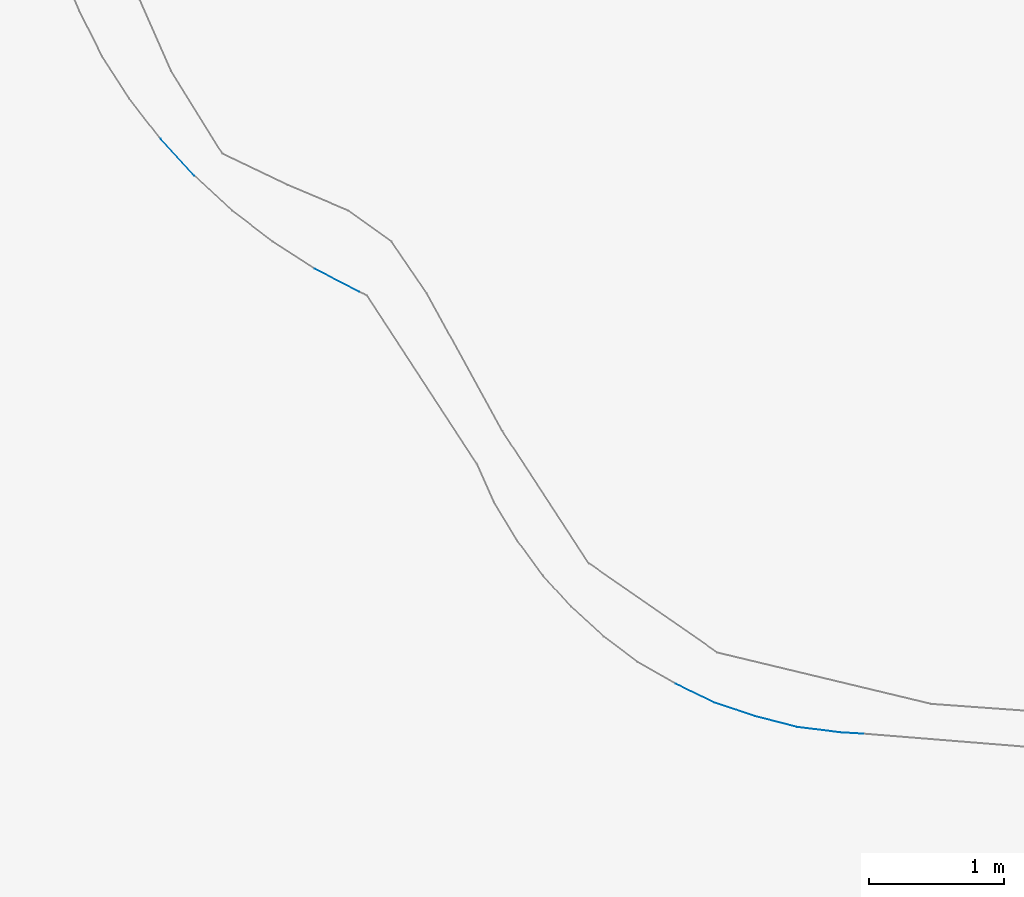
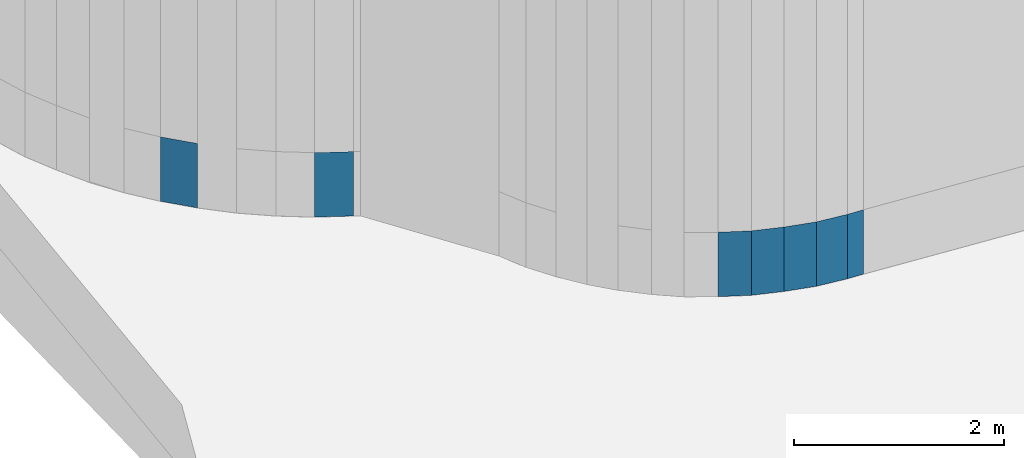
# Not in any storey, part 93 of 136: 13 walls.
"""IFC4 building model written with IfcOpenShell, lengths in metres."""

import ifcopenshell
import ifcopenshell.guid

model = None  # the IFC model being written
_history = None  # IfcOwnerHistory: only IFC2X3 demands one
_inside = {}  # id of a spatial element -> (the spatial element, [elements in it])
_under = {}  # id of a project, library or spatial element -> (it, [spatial elements below it])
_declared = {}  # id of a project -> (the project, [libraries it declares])
_typed = {}  # id of a type object -> (the type object, [elements of that type])
_made_of = {}  # id of a material, layer set ... -> (it, [elements and type objects made of it])


def new_model(schema):
    """Start an empty IFC model of exactly this schema.

    Asked for "IFC4X3", IfcOpenShell would pick the latest addendum, in which some entities
    have other attributes; the version numbers below select the first issue.
    IFC2X3 requires an IfcOwnerHistory on every rooted entity: one is made here for all.
    """
    global model, _history
    if schema == "IFC4X3":
        model = ifcopenshell.file(schema_version=(4, 3, 0, 0))
    else:
        model = ifcopenshell.file(schema=schema)
    _inside.clear()
    _under.clear()
    _declared.clear()
    _typed.clear()
    _made_of.clear()
    _history = None
    if model.schema == "IFC2X3":
        org = make("IfcOrganization", Name="unknown")
        user = make(
            "IfcPersonAndOrganization",
            ThePerson=make("IfcPerson", FamilyName="unknown"),
            TheOrganization=org,
        )
        app = make(
            "IfcApplication",
            ApplicationDeveloper=org,
            Version="unknown",
            ApplicationFullName="unknown",
            ApplicationIdentifier="unknown",
        )
        _history = make(
            "IfcOwnerHistory",
            OwningUser=user,
            OwningApplication=app,
            ChangeAction="ADDED",
            CreationDate=0,
        )
    return model


def make(cls, **values):
    """One entity of the class cls with the attributes given. An attribute that is None is left unset."""
    return model.create_entity(
        cls, **{name: value for name, value in values.items() if value is not None}
    )


def entity(cls, *values):
    """Any entity or typed value of the class cls, its attributes in the order of the schema. None: left unset."""
    e = model.create_entity(cls)
    for i, value in enumerate(values):
        if value is not None:
            e[i] = value
    return e


def rooted(cls, **values):
    """An entity with a GlobalId (a new one), such as an element, a storey or a relation."""
    return make(cls, GlobalId=ifcopenshell.guid.new(), OwnerHistory=_history, **values)


def si_unit(unit_type, name, prefix=None):
    """IfcSIUnit, for example si_unit("LENGTHUNIT", "METRE", prefix="MILLI")."""
    return make("IfcSIUnit", UnitType=unit_type, Prefix=prefix, Name=name)


def converted_unit(unit_type, name, factor, base, dimensions=None, offset=None):
    """IfcConversionBasedUnit, such as the inch: factor (a typed value) times the base unit."""
    return make(
        "IfcConversionBasedUnit"
        if offset is None
        else "IfcConversionBasedUnitWithOffset",
        ConversionOffset=offset,
        Dimensions=None
        if dimensions is None
        else entity("IfcDimensionalExponents", *dimensions),
        UnitType=unit_type,
        Name=name,
        ConversionFactor=make(
            "IfcMeasureWithUnit", ValueComponent=factor, UnitComponent=base
        ),
    )


def assignment(units):
    """IfcUnitAssignment: the units of a project."""
    return None if units is None else make("IfcUnitAssignment", Units=units)


def point(xyz):
    """IfcCartesianPoint."""
    return None if xyz is None else make("IfcCartesianPoint", Coordinates=xyz)


def direction(xyz):
    """IfcDirection."""
    return None if xyz is None else make("IfcDirection", DirectionRatios=xyz)


def frame(location, z_axis=None, x_axis=None):
    """IfcAxis2Placement3D, a coordinate frame: its origin and axes. An axis left out is left unset."""
    return make(
        "IfcAxis2Placement3D",
        Location=point(location),
        Axis=direction(z_axis),
        RefDirection=direction(x_axis),
    )


def origin():
    """The frame at (0, 0, 0) with its axes left unset."""
    return frame((0.0, 0.0, 0.0))


def place(relative_to, where):
    """IfcLocalPlacement: puts the frame where relative to a parent placement (None: the world)."""
    return make(
        "IfcLocalPlacement", PlacementRelTo=relative_to, RelativePlacement=where
    )


def context(
    kind, dimensions, precision=None, world=None, true_north=None, identifier=None
):
    """IfcGeometricRepresentationContext, for example the 3D "Model" context."""
    return make(
        "IfcGeometricRepresentationContext",
        ContextIdentifier=identifier,
        ContextType=kind,
        CoordinateSpaceDimension=dimensions,
        Precision=precision,
        WorldCoordinateSystem=world,
        TrueNorth=true_north,
    )


def subcontext(parent, identifier, kind, view, scale=None):
    """IfcGeometricRepresentationSubContext, for example "Body" below "Model"."""
    return make(
        "IfcGeometricRepresentationSubContext",
        ContextIdentifier=identifier,
        ContextType=kind,
        ParentContext=parent,
        TargetScale=scale,
        TargetView=view,
    )


def project(units=None, contexts=None):
    """IfcProject with its units and contexts."""
    return rooted(
        "IfcProject",
        Name="project",
        RepresentationContexts=contexts,
        UnitsInContext=assignment(units),
    )


def spatial(cls, under=None, at=None, **own):
    """A site, building, storey or space (cls), placed at a placement, below another one or the project."""
    s = rooted(cls, ObjectPlacement=at, **own)
    if under is not None:
        _under.setdefault(under.id(), (under, []))[1].append(s)
    return s


def faces_of(points, faces, orient=None, outer=None):
    """IfcFace entities. A face is a list of loops; a loop is a list of indices into points, from 0.

    orient and outer hold one flag for each loop. By default every Orientation is true, the
    first loop of a face is its IfcFaceOuterBound and the others are IfcFaceBound.
    """
    made = []
    for i, loops in enumerate(faces):
        bounds = []
        for j, loop in enumerate(loops):
            is_outer = j == 0 if outer is None else outer[i][j]
            bounds.append(
                make(
                    "IfcFaceOuterBound" if is_outer else "IfcFaceBound",
                    Bound=make("IfcPolyLoop", Polygon=[points[k] for k in loop]),
                    Orientation=True if orient is None else orient[i][j],
                )
            )
        made.append(make("IfcFace", Bounds=bounds))
    return made


def face_set(faces, orient=None, outer=None):
    """The faces of one IfcConnectedFaceSet. surface_model builds it on its shared points."""
    return ("IfcConnectedFaceSet", faces, orient, outer)


def surface_model(cls, points, shells):
    """IfcFaceBasedSurfaceModel or IfcShellBasedSurfaceModel (cls): surfaces that need not close."""
    shared = [point(p) for p in points]
    made = [make(c, CfsFaces=faces_of(shared, fs, o, b)) for c, fs, o, b in shells]
    if cls == "IfcFaceBasedSurfaceModel":
        return make(cls, FbsmFaces=made)
    return make(cls, SbsmBoundary=made)


def shape(context_of_items, identifier, shape_type, items):
    """IfcShapeRepresentation: the items that make up one representation, for example the "Body"."""
    return make(
        "IfcShapeRepresentation",
        ContextOfItems=context_of_items,
        RepresentationIdentifier=identifier,
        RepresentationType=shape_type,
        Items=items,
    )


def made_of(thing, what):
    """Note that an element or type object is made of a material, layer set ...; save() writes the relation."""
    if what is not None:
        _made_of.setdefault(what.id(), (what, []))[1].append(thing)
    return thing


def element(
    cls,
    number,
    at=None,
    inside=None,
    cuts=None,
    type_object=None,
    material=None,
    context=None,
    identifier="Body",
    shape_type=None,
    held_by="IfcProductDefinitionShape",
    body=None,
    shapes=None,
    **own,
):
    """One element of the class cls, such as IfcWall. Its Tag is "e" and its number.

    at: its placement. inside: the storey or other place that contains it. cuts: it is an
    opening in that element (IfcRelVoidsElement). A single representation is given by context,
    identifier, shape_type and body (its items); several are given by shapes. held_by: the class
    of the entity that holds the representations. save() writes the other relations.
    """
    e = rooted(cls, Tag="e%d" % number, ObjectPlacement=at, **own)
    if body is not None:
        shapes = [shape(context, identifier, shape_type, body)]
    if shapes is not None:
        e.Representation = make(held_by, Representations=shapes)
    if inside is not None:
        _inside.setdefault(inside.id(), (inside, []))[1].append(e)
    if cuts is not None:
        rooted(
            "IfcRelVoidsElement", RelatingBuildingElement=cuts, RelatedOpeningElement=e
        )
    if type_object is not None:
        _typed.setdefault(type_object.id(), (type_object, []))[1].append(e)
    return made_of(e, material)


def aggregate(whole, parts):
    """IfcRelAggregates: a whole, such as a stair, and the parts it consists of."""
    return rooted("IfcRelAggregates", RelatingObject=whole, RelatedObjects=parts)


def save(model, path):
    """Write the relations noted so far, then the file.

    IfcRelAggregates (storeys below a building ...), IfcRelContainedInSpatialStructure (elements
    in a storey), IfcRelDefinesByType, IfcRelAssociatesMaterial and IfcRelDeclares: one each for
    every whole, place, type object, material and project.
    """
    for whole, parts in _under.values():
        aggregate(whole, parts)
    for where, things in _inside.values():
        rooted(
            "IfcRelContainedInSpatialStructure",
            RelatedElements=things,
            RelatingStructure=where,
        )
    for kind, things in _typed.values():
        rooted("IfcRelDefinesByType", RelatedObjects=things, RelatingType=kind)
    for what, things in _made_of.values():
        rooted("IfcRelAssociatesMaterial", RelatedObjects=things, RelatingMaterial=what)
    for by, libraries in _declared.values():
        rooted("IfcRelDeclares", RelatingContext=by, RelatedDefinitions=libraries)
    model.write(path)


model = new_model("IFC4")

# Units and contexts
model_context = context("Model", 3, precision=1e-05, world=origin())
body_context = subcontext(model_context, "Body", "Model", "MODEL_VIEW")
ifc_project = project(units=[converted_unit("PLANEANGLEUNIT", "DEGREE", entity("IfcRatioMeasure", 0.0174532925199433), si_unit("PLANEANGLEUNIT", "RADIAN"), dimensions=[0, 0, 0, 0, 0, 0, 0]), si_unit("AREAUNIT", "SQUARE_METRE"), si_unit("LENGTHUNIT", "METRE")], contexts=[model_context])

# Site, building
site_placement = place(None, origin())
site = spatial("IfcSite", under=ifc_project, at=site_placement, Name="_site")
building_placement = place(site_placement, origin())
building = spatial("IfcBuilding", under=site, at=building_placement, Name="_building")

# Walls
wall_1_placement = place(building_placement, origin())
element("IfcWall", 1, at=wall_1_placement, inside=building, Name="Wall", PredefinedType="NOTDEFINED", context=body_context, shape_type="SurfaceModel", body=[
    surface_model("IfcFaceBasedSurfaceModel", [(180.88, 52.5, 37.93), (181.2, 52.46, 37.93), (181.2, 52.46, 38.68), (180.88, 52.5, 38.68)], [face_set([[[0, 1, 2, 3]]])]),
])
wall_2_placement = place(building_placement, origin())
element("IfcWall", 2, at=wall_2_placement, inside=building, Name="Wall", PredefinedType="NOTDEFINED", context=body_context, shape_type="SurfaceModel", body=[
    surface_model("IfcFaceBasedSurfaceModel", [(180.57, 52.58, 37.93), (180.88, 52.5, 37.93), (180.88, 52.5, 38.68), (180.57, 52.58, 38.68)], [face_set([[[0, 1, 2, 3]]])]),
])
wall_3_placement = place(building_placement, origin())
element("IfcWall", 3, at=wall_3_placement, inside=building, Name="Wall", PredefinedType="NOTDEFINED", context=body_context, shape_type="SurfaceModel", body=[
    surface_model("IfcFaceBasedSurfaceModel", [(176.17, 56.851, 37.93), (176.42, 56.58, 37.93), (176.42, 56.58, 38.68), (176.17, 56.851, 38.68)], [face_set([[[0, 1, 2, 3]]])]),
])
for number, where, name in (
    (4, (0.0, 0.0, 0.0), "Wall"),
    (5, (0.0, 0.0, 0.0), "Wall"),
):
    element("IfcWall", number, at=place(building_placement, frame(where)), inside=building, Name=name, PredefinedType="NOTDEFINED", context=body_context, shape_type="SurfaceModel", body=[
        surface_model("IfcFaceBasedSurfaceModel", [(179.98, 52.82, 37.93), (180.27, 52.68, 37.93), (180.27, 52.68, 38.68), (179.98, 52.82, 38.68)], [face_set([[[0, 1, 2, 3]]])]),
    ])
wall_4_placement = place(building_placement, origin())
element("IfcWall", 6, at=wall_4_placement, inside=building, Name="Wall", PredefinedType="NOTDEFINED", context=body_context, shape_type="SurfaceModel", body=[
    surface_model("IfcFaceBasedSurfaceModel", [(181.2, 52.46, 37.93), (181.37, 52.45, 37.93), (181.37, 52.45, 38.68), (181.2, 52.46, 38.68)], [face_set([[[0, 1, 2, 3]]])]),
])
wall_5_placement = place(building_placement, origin())
element("IfcWall", 7, at=wall_5_placement, inside=building, Name="Wall", PredefinedType="NOTDEFINED", context=body_context, shape_type="SurfaceModel", body=[
    surface_model("IfcFaceBasedSurfaceModel", [(177.31, 55.89, 37.93), (177.64, 55.72, 37.93), (177.64, 55.72, 38.68), (177.31, 55.89, 38.68)], [face_set([[[0, 1, 2, 3]]])]),
])
wall_6_placement = place(building_placement, origin())
element("IfcWall", 8, at=wall_6_placement, inside=building, Name="Wall", PredefinedType="NOTDEFINED", context=body_context, shape_type="SurfaceModel", body=[
    surface_model("IfcFaceBasedSurfaceModel", [(180.57, 52.58, 37.93), (180.88, 52.5, 37.93), (180.88, 52.5, 38.68), (180.57, 52.58, 38.68)], [face_set([[[0, 1, 2, 3]]])]),
])
wall_7_placement = place(building_placement, origin())
element("IfcWall", 9, at=wall_7_placement, inside=building, Name="Wall", PredefinedType="NOTDEFINED", context=body_context, shape_type="SurfaceModel", body=[
    surface_model("IfcFaceBasedSurfaceModel", [(180.27, 52.68, 37.93), (180.57, 52.58, 37.93), (180.57, 52.58, 38.68), (180.27, 52.68, 38.68)], [face_set([[[0, 1, 2, 3]]])]),
])
wall_8_placement = place(building_placement, origin())
element("IfcWall", 10, at=wall_8_placement, inside=building, Name="Wall", PredefinedType="NOTDEFINED", context=body_context, shape_type="SurfaceModel", body=[
    surface_model("IfcFaceBasedSurfaceModel", [(180.88, 52.5, 37.93), (181.2, 52.46, 37.93), (181.2, 52.46, 38.68), (180.88, 52.5, 38.68)], [face_set([[[0, 1, 2, 3]]])]),
])
wall_9_placement = place(building_placement, origin())
element("IfcWall", 11, at=wall_9_placement, inside=building, Name="Wall", PredefinedType="NOTDEFINED", context=body_context, shape_type="SurfaceModel", body=[
    surface_model("IfcFaceBasedSurfaceModel", [(181.2, 52.46, 37.93), (181.37, 52.45, 37.93), (181.37, 52.45, 38.68), (181.2, 52.46, 38.68)], [face_set([[[0, 1, 2, 3]]])]),
])
wall_10_placement = place(building_placement, origin())
element("IfcWall", 12, at=wall_10_placement, inside=building, Name="Wall", PredefinedType="NOTDEFINED", context=body_context, shape_type="SurfaceModel", body=[
    surface_model("IfcFaceBasedSurfaceModel", [(176.17, 56.851, 37.93), (176.42, 56.58, 37.93), (176.42, 56.58, 38.68), (176.17, 56.851, 38.68)], [face_set([[[0, 1, 2, 3]]])]),
])
wall_11_placement = place(building_placement, origin())
element("IfcWall", 13, at=wall_11_placement, inside=building, Name="Wall", PredefinedType="NOTDEFINED", context=body_context, shape_type="SurfaceModel", body=[
    surface_model("IfcFaceBasedSurfaceModel", [(180.27, 52.68, 37.93), (180.57, 52.58, 37.93), (180.57, 52.58, 38.68), (180.27, 52.68, 38.68)], [face_set([[[0, 1, 2, 3]]])]),
])

save(model, "model.ifc")
